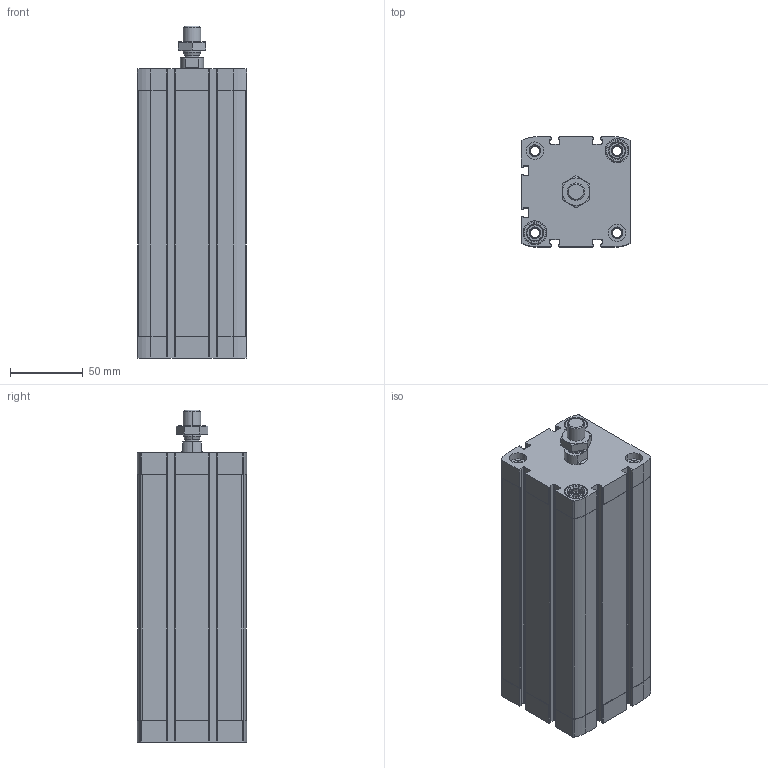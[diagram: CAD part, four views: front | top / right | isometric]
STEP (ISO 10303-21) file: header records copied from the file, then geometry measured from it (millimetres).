
FILE_DESCRIPTION (( 'STEP AP203' ), '1' );
FILE_NAME ('CCN63-150M.STEP', '2017-04-05T18:24:07', ( '' ), ( '' ), 'SwSTEP 2.0', 'SolidWorks 2016', '' );
FILE_SCHEMA (( 'CONFIG_CONTROL_DESIGN' ));
Length unit declared in the file: millimetre
Products named in the file (4): CCN---(Z); CCN-(KS); _DIN-439-B - M12x1.25(F); CCN63-150M
Assembly tree (3 placements, depth 2):
  CCN63-150M
    CCN---(Z)
    CCN-(KS)
    _DIN-439-B - M12x1.25(F)
Bounding box: 75.5 x 75.5 x 228.5 mm (x, y, z)
Volume: 610626.5 mm3; surface area: 163944 mm2
Topology: 3 solids, 3 shells, 491 faces, 1320 edges, 866 vertices
Faces by surface type: plane 227, cylinder 212, cone 48, bspline 4
Entity records: 16112 total; most frequent: CARTESIAN_POINT 3143, DIRECTION 2680, ORIENTED_EDGE 2640, EDGE_CURVE 1320, AXIS2_PLACEMENT_3D 981, VERTEX_POINT 866, VECTOR 718, LINE 718
